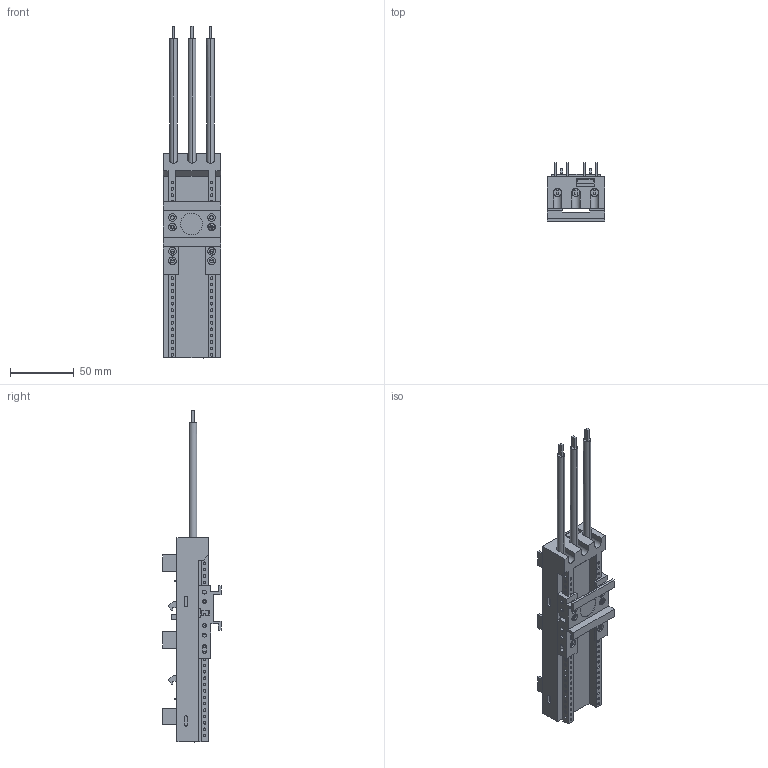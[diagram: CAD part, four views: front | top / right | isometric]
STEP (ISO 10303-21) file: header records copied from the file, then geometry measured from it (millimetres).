
FILE_DESCRIPTION(('CATIA V5 STEP Exchange','CAx-IF Rec.Pracs.--- Model Styling and Organization---1.2---2011-12-15'),'2;1');
FILE_NAME('V:\3D_Symbole\32684_Brandlabel\32684140\1002664.stp','2018-04-26T06:43:39+00:00',('none'),('none'),'Version 5-6 Release 2012','CATIA V5 STEP AP214','none');
FILE_SCHEMA(('AUTOMOTIVE_DESIGN { 1 0 10303 214 1 1 1 1 }'));
Length unit declared in the file: millimetre
Products named in the file (6): 1002664; EQUES comfort einfach; EQUES45_comfort_einfach; Rastelement neu; mounting rail; flat headed screw
Assembly tree (5 placements, depth 3):
  1002664
    EQUES comfort einfach
      EQUES45_comfort_einfach
      Rastelement neu
      mounting rail
      flat headed screw
Bounding box: 45 x 45.5 x 260 mm (x, y, z)
Volume: 150975.6 mm3; surface area: 53719.2 mm2
Topology: 8 solids, 8 shells, 745 faces, 1737 edges, 1140 vertices
Faces by surface type: plane 396, cylinder 328, sphere 14, bspline 4, torus 3
Entity records: 21973 total; most frequent: CARTESIAN_POINT 5346, ORIENTED_EDGE 3454, DIRECTION 2614, EDGE_CURVE 1727, VERTEX_POINT 1140, AXIS2_PLACEMENT_3D 1091, VECTOR 1024, LINE 1024
